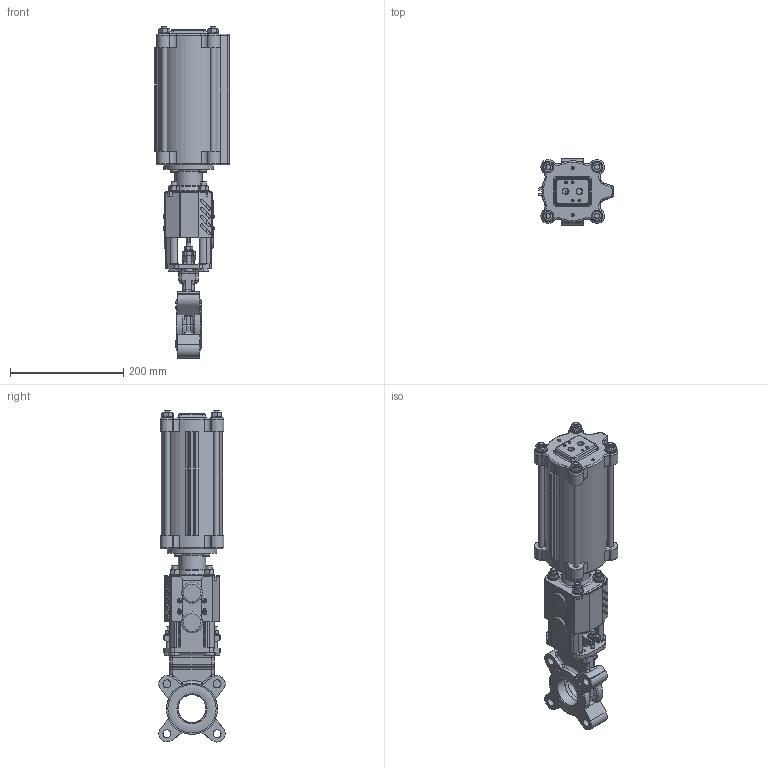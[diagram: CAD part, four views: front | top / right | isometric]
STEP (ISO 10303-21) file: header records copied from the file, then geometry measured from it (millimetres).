
FILE_DESCRIPTION(/* description */ (''),/* implementation_level */ '2;1');
FILE_NAME(/* name */ 'G:\KONSTRUK\3-D Block för kund\WB VALVE\SC-Cylinder\WB11-DN50-PN10-SC100-115.stp',/* time_stamp */ '2018-01-03T15:43:33+01:00',/* author */ ('emimus'),/* organization */ (''),/* preprocessor_version */ 'ST-DEVELOPER v16.5',/* originating_system */ 'Autodesk Inventor 2017',/* authorisation */ '');
FILE_SCHEMA (('CONFIG_CONTROL_DESIGN'));
Products named in the file (1): WB11-DN50-PN10-SC100-115-block
Bounding box: 132 x 117.04 x 585.52 mm (x, y, z)
Volume: 1732720 mm3; surface area: 609692.4 mm2
Topology: 2 solids, 9 shells, 1976 faces, 4992 edges, 3098 vertices
Faces by surface type: plane 768, cylinder 497, cone 252, torus 210, bspline 171, sphere 78
Full cylindrical faces by diameter (mm): 3.6 x4, 4 x4, 4.134 x4, 4.2 x12, 4.5 x4, 4.917 x4, 6 x5, 8 x11, 8.4 x2, 9 x2, 10 x20, 10.106 x1, 10.5 x8, 11 x8, 11.445 x2, 13 x4, 14 x7, 15 x3, 16 x2, 20 x9, 20.15 x2, 22 x5, 24 x1, 26 x1, 26.4 x1, 28 x4, 37 x4, 40 x1, 48 x1, 50 x2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
Entity records: 70003 total; most frequent: CARTESIAN_POINT 23037, DIRECTION 9644, ORIENTED_EDGE 9136, EDGE_CURVE 4560, AXIS2_PLACEMENT_3D 4050, VERTEX_POINT 2985, EDGE_LOOP 2503, FACE_OUTER_BOUND 1976
